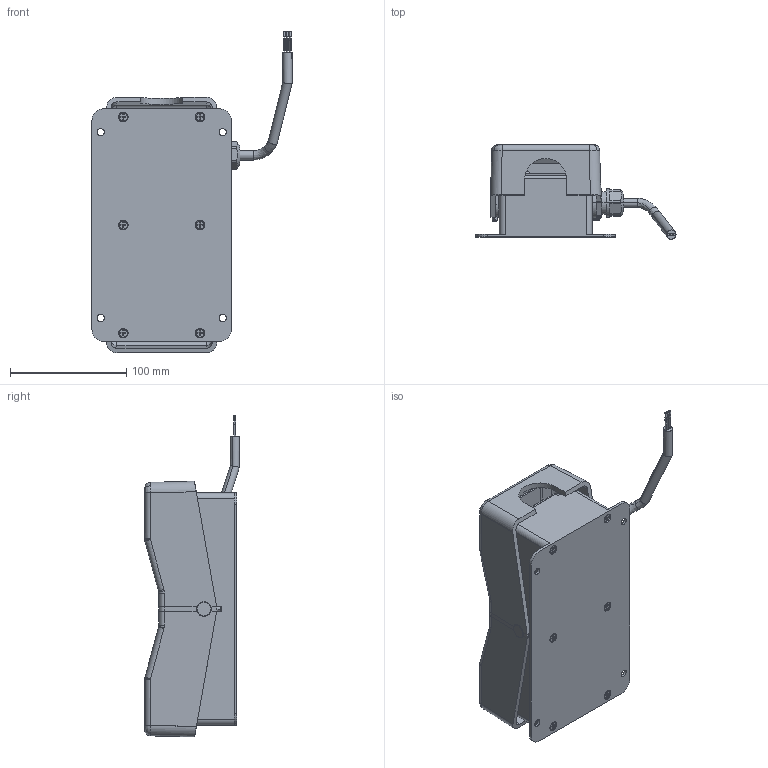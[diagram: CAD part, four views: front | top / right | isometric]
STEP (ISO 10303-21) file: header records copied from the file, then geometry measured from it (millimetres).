
FILE_DESCRIPTION(('FreeCAD Model'),'2;1');
FILE_NAME('O:/12-Produkte/12-10 PM/12-10-10 JOY/01_Produktinfo/P82 - EOL/Zeichnungen/P82 5 2 0 0 0.step','2020-07-30T09:46:36',('Author'),('' ),'Open CASCADE STEP processor 7.3','FreeCAD','Unknown');
FILE_SCHEMA(('AUTOMOTIVE_DESIGN { 1 0 10303 214 1 1 1 1 }'));
Length unit declared in the file: millimetre
Products named in the file (3): P82_5_2_0_0_0; ベース_3D; ペダル_3D
Assembly tree (2 placements, depth 2):
  P82_5_2_0_0_0
    ベース_3D
    ペダル_3D
Bounding box: 172.18 x 81.45 x 276.95 mm (x, y, z)
Volume: 475433.1 mm3; surface area: 236416.8 mm2
Topology: 18 solids, 18 shells, 1498 faces, 11292 edges, 32432 vertices
Faces by surface type: plane 687, cylinder 460, cone 180, bspline 171
Entity records: 263586 total; most frequent: CARTESIAN_POINT 135046, DIRECTION 20024, LINE 10990, VECTOR 10990, GEOMETRIC_CURVE_SET 7520, ORIENTED_EDGE 7488, PCURVE 7488, DEFINITIONAL_REPRESENTATION 7488
